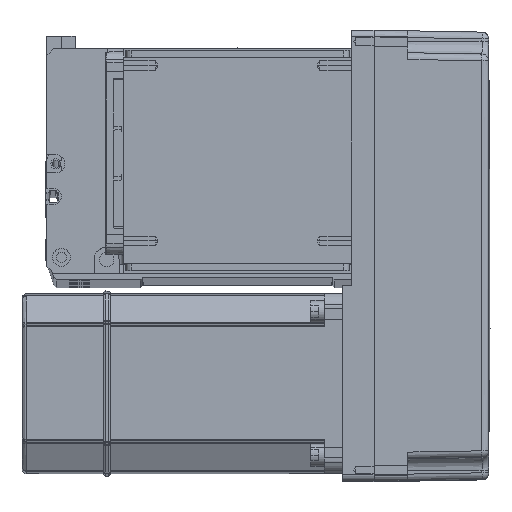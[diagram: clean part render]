
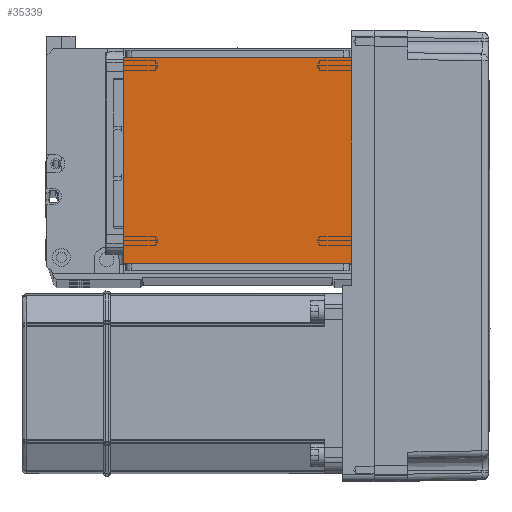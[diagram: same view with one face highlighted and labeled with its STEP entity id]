
A CAD part, top view. The second image highlights one B-rep face of the part: STEP entity #35339.
In plain terms, the highlighted planar face has unit normal (0, 0, 1).
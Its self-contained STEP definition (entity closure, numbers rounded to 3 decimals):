
#111 = VERTEX_POINT ( 'NONE', #58938 ) ;
#112 = CARTESIAN_POINT ( 'NONE',  ( 50.5, 111.5, 115. ) ) ;
#2348 = EDGE_CURVE ( 'NONE', #25530, #6470, #34350, .T. ) ;
#6061 = EDGE_CURVE ( 'NONE', #25530, #111, #53124, .T. ) ;
#6119 = ORIENTED_EDGE ( 'NONE', *, *, #31848, .T. ) ;
#6470 = VERTEX_POINT ( 'NONE', #112 ) ;
#11798 = CARTESIAN_POINT ( 'NONE',  ( -50.5, 111.5, 115. ) ) ;
#12539 = CARTESIAN_POINT ( 'NONE',  ( -70.004, 20., 115. ) ) ;
#13012 = DIRECTION ( 'NONE',  ( 1., 0., 0. ) ) ;
#17274 = ORIENTED_EDGE ( 'NONE', *, *, #2348, .F. ) ;
#20454 = EDGE_CURVE ( 'NONE', #50228, #111, #60172, .T. ) ;
#21983 = VECTOR ( 'NONE', #61087, 1000. ) ;
#23853 = VECTOR ( 'NONE', #13012, 1000. ) ;
#25530 = VERTEX_POINT ( 'NONE', #11798 ) ;
#27369 = CARTESIAN_POINT ( 'NONE',  ( 50.5, 122., 115. ) ) ;
#27509 = PLANE ( 'NONE',  #40337 ) ;
#27914 = CARTESIAN_POINT ( 'NONE',  ( 0., 0., 115. ) ) ;
#31848 = EDGE_CURVE ( 'NONE', #50228, #6470, #38491, .T. ) ;
#33542 = CARTESIAN_POINT ( 'NONE',  ( 50.5, 20., 115. ) ) ;
#34350 = LINE ( 'NONE', #50651, #23853 ) ;
#35158 = ORIENTED_EDGE ( 'NONE', *, *, #6061, .T. ) ;
#35339 = ADVANCED_FACE ( 'NONE', ( #38083 ), #27509, .T. ) ;
#38083 = FACE_OUTER_BOUND ( 'NONE', #38801, .T. ) ;
#38491 = LINE ( 'NONE', #27369, #49670 ) ;
#38801 = EDGE_LOOP ( 'NONE', ( #17274, #35158, #49052, #6119 ) ) ;
#39641 = VECTOR ( 'NONE', #61442, 1000. ) ;
#40337 = AXIS2_PLACEMENT_3D ( 'NONE', #27914, #56772, #46700 ) ;
#46393 = CARTESIAN_POINT ( 'NONE',  ( -50.5, 122., 115. ) ) ;
#46700 = DIRECTION ( 'NONE',  ( 1., 0., 0. ) ) ;
#46980 = DIRECTION ( 'NONE',  ( 0., 1., 0. ) ) ;
#49052 = ORIENTED_EDGE ( 'NONE', *, *, #20454, .F. ) ;
#49670 = VECTOR ( 'NONE', #46980, 1000. ) ;
#50228 = VERTEX_POINT ( 'NONE', #33542 ) ;
#50651 = CARTESIAN_POINT ( 'NONE',  ( -70.004, 111.5, 115. ) ) ;
#53124 = LINE ( 'NONE', #46393, #39641 ) ;
#56772 = DIRECTION ( 'NONE',  ( 0., 0., 1. ) ) ;
#58938 = CARTESIAN_POINT ( 'NONE',  ( -50.5, 20., 115. ) ) ;
#60172 = LINE ( 'NONE', #12539, #21983 ) ;
#61087 = DIRECTION ( 'NONE',  ( -1., 0., 0. ) ) ;
#61442 = DIRECTION ( 'NONE',  ( 0., -1., 0. ) ) ;
